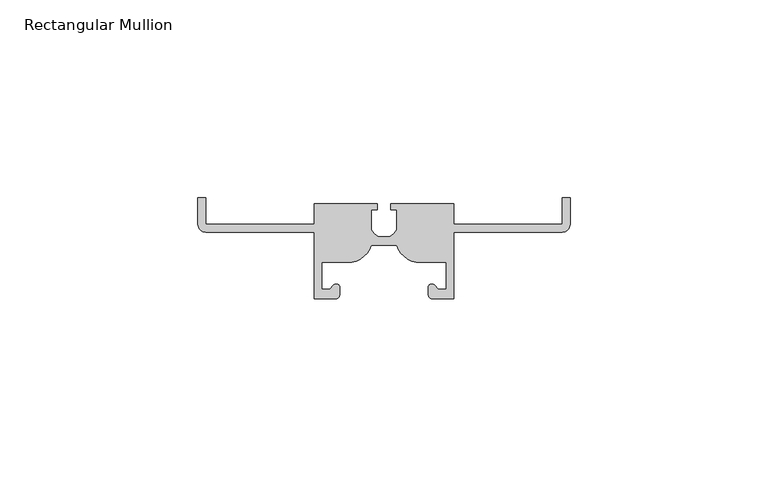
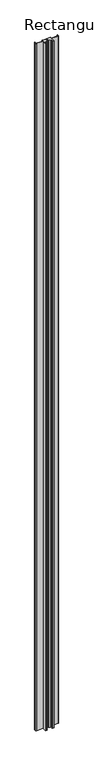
"""IFC4 building model written with IfcOpenShell, lengths in millimetres: member geometry, Rectangular Mullion : NLRS_21_CWM_drager LD.0240 - links_Storax."""

from ifc_helpers import new_model, si_unit, point, frame, frame_2d, origin, place, context, project, spatial, polyline, circle_curve, trimmed, segment, composite_curve, outline, extrude, source, transform, mapped, element, save


def rectangular_mullion_aaa1fb1b(model_context):
    return source(origin(), model_context, "Body", "SweptSolid", [
        extrude(outline(composite_curve([segment(trimmed(circle_curve(frame_2d((-52.0087419, -7.6257936)), 2.0087419), [point((-50.0, -7.6257936))], [point((-52.0087419, -9.6345355))], False, "CARTESIAN"), True, "CONTINUOUS"), segment(polyline([(-52.0087419, -9.6345355), (-79.3400236, -9.6345355), (-79.3400236, -26.5), (-84.6531539, -26.5)]), True, "CONTINUOUS"), segment(trimmed(circle_curve(frame_2d((-84.6531539, -25.3135005)), 1.1864995), [point((-84.6531539, -26.5))], [point((-85.8396534, -25.3135005))], False, "CARTESIAN"), True, "CONTINUOUS"), segment(polyline([(-85.8396534, -25.3135005), (-85.8396534, -23.3009057)]), True, "CONTINUOUS"), segment(trimmed(circle_curve(frame_2d((-84.8772851, -23.8515635)), 1.1087726), [point((-85.8396534, -23.3009057))], [point((-84.1385729, -23.0247134))], False, "CARTESIAN"), True, "CONTINUOUS"), segment(polyline([(-84.1385729, -23.0247134), (-83.2490245, -24.1232143), (-81.3265874, -24.1232143), (-81.3265874, -17.2531745), (-88.8631802, -17.2531745)]), True, "CONTINUOUS"), segment(trimmed(circle_curve(frame_2d((-87.632073, -10.8255058)), 6.5445053), [point((-88.8631802, -17.2531745))], [point((-93.8258511, -12.9391905))], False, "CARTESIAN"), True, "CONTINUOUS"), segment(polyline([(-93.8258511, -12.9391905), (-100.1741489, -12.9391905)]), True, "CONTINUOUS"), segment(trimmed(circle_curve(frame_2d((-106.367927, -10.8255058)), 6.5445053), [point((-100.1741489, -12.9391905))], [point((-105.1368198, -17.2531745))], False, "CARTESIAN"), True, "CONTINUOUS"), segment(polyline([(-105.1368198, -17.2531745), (-112.6734126, -17.2531745), (-112.6734126, -24.1232143), (-110.7509755, -24.1232143), (-109.8614271, -23.0247134)]), True, "CONTINUOUS"), segment(trimmed(circle_curve(frame_2d((-109.1227149, -23.8515635)), 1.1087726), [point((-109.8614271, -23.0247134))], [point((-108.1603466, -23.3009057))], False, "CARTESIAN"), True, "CONTINUOUS"), segment(polyline([(-108.1603466, -23.3009057), (-108.1603466, -25.3135005)]), True, "CONTINUOUS"), segment(trimmed(circle_curve(frame_2d((-109.3468461, -25.3135005)), 1.1864995), [point((-108.1603466, -25.3135005))], [point((-109.3468461, -26.5))], False, "CARTESIAN"), True, "CONTINUOUS"), segment(polyline([(-109.3468461, -26.5), (-114.6599764, -26.5), (-114.6599764, -9.6345355), (-141.9912581, -9.6345355)]), True, "CONTINUOUS"), segment(trimmed(circle_curve(frame_2d((-141.9912581, -7.6257936)), 2.0087419), [point((-141.9912581, -9.6345355))], [point((-144.0, -7.6257936))], False, "CARTESIAN"), True, "CONTINUOUS"), segment(polyline([(-144.0, -7.6257936), (-144.0, -1.0), (-141.9912581, -1.0), (-141.9912581, -7.611542), (-114.6599764, -7.611542), (-114.6599764, -2.5065082), (-98.6945192, -2.5065082), (-98.6945192, -4.0065082), (-100.1741489, -4.0065082), (-100.1741489, -9.0065082)]), True, "CONTINUOUS"), segment(trimmed(circle_curve(frame_2d((-97.0039792, -7.6048296)), 3.4662197), [point((-100.1741489, -9.0065082))], [point((-98.4056577, -10.7749993))], True, "CARTESIAN"), True, "CONTINUOUS"), segment(polyline([(-98.4056577, -10.7749993), (-95.5943423, -10.7749993)]), True, "CONTINUOUS"), segment(trimmed(circle_curve(frame_2d((-96.9960208, -7.6048296)), 3.4662197), [point((-95.5943423, -10.7749993))], [point((-93.8258511, -9.0065082))], True, "CARTESIAN"), True, "CONTINUOUS"), segment(polyline([(-93.8258511, -9.0065082), (-93.8258511, -4.0065082), (-95.3054808, -4.0065082), (-95.3054808, -2.5065082), (-79.3400236, -2.5065082), (-79.3400236, -7.611542), (-52.0087419, -7.611542), (-52.0087419, -1.0), (-50.0, -1.0), (-50.0, -7.6257936)]), True, "CONTINUOUS")], self_intersect=False)), frame((0.0, 0.0, -3000.0), z_axis=(0.0, 0.0, 1.0), x_axis=(1.0, 0.0, 0.0)), (0.0, 0.0, 1.0), 3000.0),
    ])


if __name__ == "__main__":
    model = new_model("IFC4")
    model_context = context("Model", 3, world=origin())
    ifc_project = project(units=[si_unit("LENGTHUNIT", "METRE", prefix="MILLI")], contexts=[model_context])
    site = spatial("IfcSite", under=ifc_project)
    building = spatial("IfcBuilding", under=site)
    placement = place(None, origin())
    rectangular_mullion_shape = rectangular_mullion_aaa1fb1b(model_context)
    element("IfcMember", 1, ObjectType="Rectangular Mullion : NLRS_21_CWM_drager LD.0240 - links_Storax", at=placement, inside=building, context=model_context, shape_type="MappedRepresentation", body=[
        mapped(rectangular_mullion_shape, transform((0.0, 0.0, 0.0), x_axis=(1.0, 0.0, 0.0), y_axis=(0.0, 1.0, 0.0), z_axis=(0.0, 0.0, 1.0))),
    ])
    save(model, "model.ifc")
